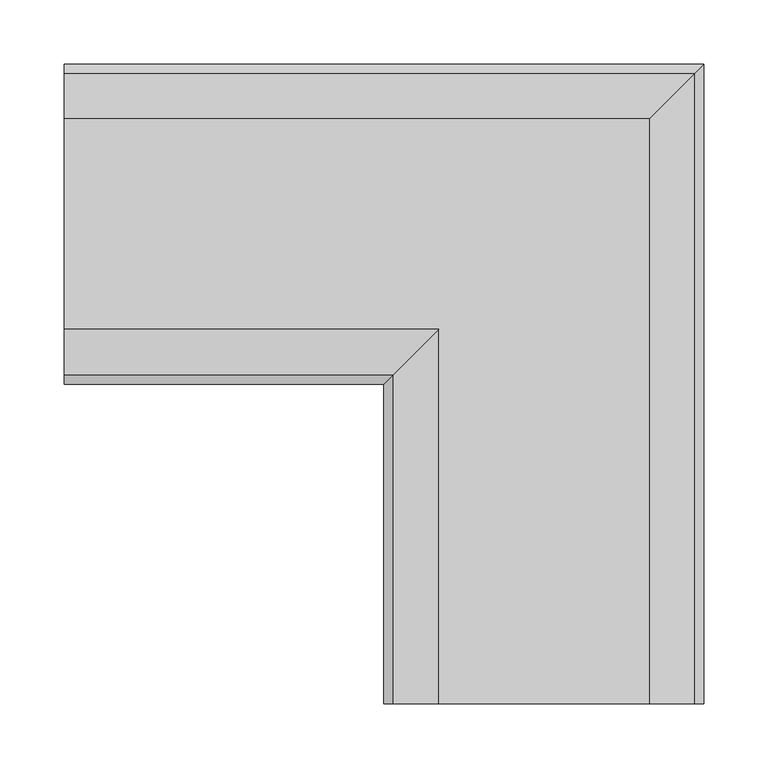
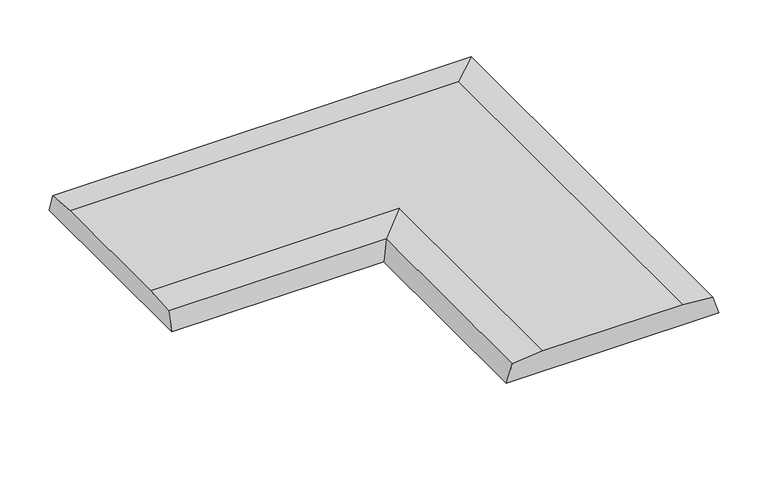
"""IFC4 building model written with IfcOpenShell, lengths in millimetres: proxy geometry, ROSA GRES_245 EC_Colocación en plano : Pieza 245 EC_Mistery_Grey_Anti-Slip."""

from ifc_helpers import new_model, si_unit, frame, origin, place, context, project, spatial, circle_curve, ellipse_curve, source, transform, mapped, element, save
from ifc_brep_helpers import plane_surface, cylinder_surface, advanced_brep


def generic_models_075414a9(model_context):
    return source(origin(), model_context, "Body", "AdvancedBrep", [
        advanced_brep(
        [(-497.5203405, -6.8767361, 22.0203494), (-497.5203405, 0.0, 0.0), (-497.5203405, -248.9615625, 0.0), (-497.5203405, -242.1111731, 21.9708993), (-497.5203405, -206.2234894, 25.0413492), (-497.5203405, -42.3166842, 25.0413492), (-6.8767361, -497.5203405, 22.0203494), (-42.3166842, -497.5203405, 25.0413492), (-206.2234894, -497.5203405, 25.0413492), (-242.1111731, -497.5203405, 21.9708993), (-248.9615625, -497.5203405, 0.0), (0.0, -497.5203405, 0.0), (-6.8767361, -6.8767361, 22.0203494), (0.0, 0.0, 0.0), (-248.9615625, -248.9615625, 0.0), (-242.1111731, -242.1111731, 21.9708993), (-206.2234894, -206.2234894, 25.0413492), (-42.3166842, -42.3166842, 25.0413492)],
        [
            (0, 1),
            (1, 2),
            (2, 3),
            (3, 4, circle_curve(frame((-497.5203405, -162.6768549, -695.1998883), z_axis=(-1.0, 0.0, 0.0), x_axis=(0.0, 1.0, 0.0)), 721.556477)),
            (4, 5),
            (5, 0, circle_curve(frame((-497.5203405, -85.8633186, -695.1998883), z_axis=(-1.0, 0.0, 0.0), x_axis=(0.0, 1.0, 0.0)), 721.556477)),
            (6, 7, circle_curve(frame((-85.8633186, -497.5203405, -695.1998883), z_axis=(0.0, -1.0, 0.0), x_axis=(1.0, 0.0, 0.0)), 721.556477)),
            (7, 8),
            (8, 9, circle_curve(frame((-162.6768549, -497.5203405, -695.1998883), z_axis=(0.0, -1.0, 0.0), x_axis=(1.0, 0.0, 0.0)), 721.556477)),
            (9, 10),
            (10, 11),
            (11, 6),
            (0, 12),
            (12, 13),
            (13, 1),
            (13, 11),
            (10, 14),
            (14, 2),
            (14, 15),
            (15, 3),
            (15, 16, ellipse_curve(frame((-162.6768549, -162.6768549, -695.1998883), z_axis=(-0.7071067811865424, 0.7071067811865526, 0.0), x_axis=(-0.7071067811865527, -0.7071067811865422, 0.0)), 1020.4349559, 721.556477)),
            (16, 4),
            (16, 8),
            (7, 17),
            (17, 5),
            (17, 12, ellipse_curve(frame((-85.8633186, -85.8633186, -695.1998883), z_axis=(-0.7071067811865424, 0.7071067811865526, 0.0), x_axis=(-0.7071067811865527, -0.7071067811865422, 0.0)), 1020.4349559, 721.556477)),
            (12, 6),
            (9, 15),
        ],
        [
            plane_surface(frame((-497.5203405, 0.4796595, 0.0), z_axis=(-1.0, 0.0, 0.0), x_axis=(0.0, 0.0, 1.0))),
            plane_surface(frame((0.4796595, -497.5203405, 0.0), z_axis=(0.0, -1.0, 0.0), x_axis=(0.0, 0.0, 1.0))),
            plane_surface(frame((-497.5203405, -6.8767361, 22.0203494), z_axis=(0.0, 0.9545370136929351, 0.2980924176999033), x_axis=(1.0, 0.0, 0.0))),
            plane_surface(frame((-497.5203405, 0.0, 0.0), z_axis=(0.0, 0.0, -1.0), x_axis=(1.0, 0.0, 0.0))),
            plane_surface(frame((-497.5203405, -248.9615625, 0.0), z_axis=(0.0, -0.9546717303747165, 0.29766069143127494), x_axis=(1.0, 0.0, 0.0))),
            cylinder_surface(frame((-497.5203405, -162.6768549, -695.1998883), z_axis=(-1.0, 0.0, 0.0), x_axis=(0.0, 1.0, 0.0)), 721.556477),
            plane_surface(frame((-497.5203405, -206.2234894, 25.0413492), z_axis=(0.0, 0.0, 1.0), x_axis=(1.0, 0.0, 0.0))),
            cylinder_surface(frame((-497.5203405, -85.8633186, -695.1998883), z_axis=(-1.0, 0.0, 0.0), x_axis=(0.0, 1.0, 0.0)), 721.556477),
            plane_surface(frame((-6.8767361, -6.8767361, 22.0203494), z_axis=(0.9545370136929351, 0.0, 0.2980924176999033), x_axis=(0.0, -1.0, 0.0))),
            plane_surface(frame((-248.9615625, -248.9615625, 0.0), z_axis=(-0.9546717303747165, 0.0, 0.29766069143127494), x_axis=(0.0, -1.0, 0.0))),
            cylinder_surface(frame((-162.6768549, 0.4796595, -695.1998883), z_axis=(0.0, 1.0, 0.0), x_axis=(1.0, 0.0, 0.0)), 721.556477),
            cylinder_surface(frame((-85.8633186, 0.4796595, -695.1998883), z_axis=(0.0, 1.0, 0.0), x_axis=(1.0, 0.0, 0.0)), 721.556477),
        ],
        [
            (0, [[1, 2, 3, 4, 5, 6]]),
            (1, [[7, 8, 9, 10, 11, 12]]),
            (2, [[-1, 13, 14, 15]]),
            (3, [[-2, -15, 16, -11, 17, 18]]),
            (4, [[-3, -18, 19, 20]]),
            (5, [[-4, -20, 21, 22]]),
            (6, [[-5, -22, 23, -8, 24, 25]]),
            (7, [[-6, -25, 26, -13]]),
            (8, [[-14, 27, -12, -16]]),
            (9, [[-19, -17, -10, 28]]),
            (10, [[-21, -28, -9, -23]]),
            (11, [[-26, -24, -7, -27]]),
        ],
    ),
    ])


if __name__ == "__main__":
    model = new_model("IFC4")
    model_context = context("Model", 3, world=origin())
    ifc_project = project(units=[si_unit("LENGTHUNIT", "METRE", prefix="MILLI")], contexts=[model_context])
    site = spatial("IfcSite", under=ifc_project)
    building = spatial("IfcBuilding", under=site)
    placement = place(None, origin())
    generic_models_shape = generic_models_075414a9(model_context)
    element("IfcBuildingElementProxy", 1, Name="ROSA GRES_245 EC_Colocación en plano : Pieza 245 EC_Mistery_Grey_Anti-Slip", ObjectType="ROSA GRES_245 EC_Colocación en plano : Pieza 245 EC_Mistery_Grey_Anti-Slip", at=placement, inside=building, context=model_context, shape_type="MappedRepresentation", body=[
        mapped(generic_models_shape, transform((0.0, 0.0, 0.0), x_axis=(1.0, 0.0, 0.0), y_axis=(0.0, 1.0, 0.0), z_axis=(0.0, 0.0, 1.0))),
    ])
    save(model, "model.ifc")
